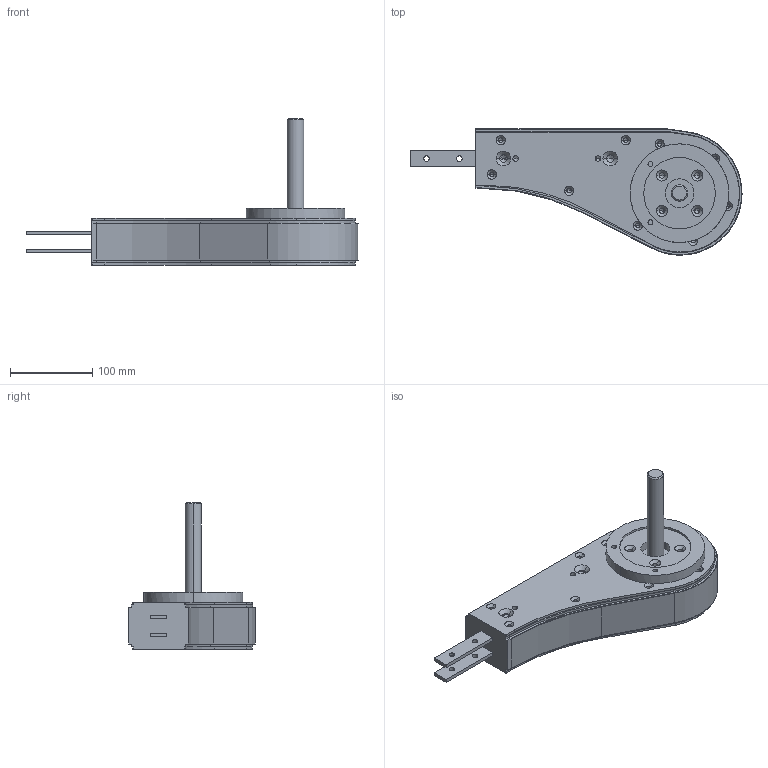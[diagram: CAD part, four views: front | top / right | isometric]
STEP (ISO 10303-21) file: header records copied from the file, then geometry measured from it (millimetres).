
FILE_DESCRIPTION (( 'STEP AP214' ), '1' );
FILE_NAME ('FKDD GP 0R.step', '2017-04-07T11:07:06', ( '' ), ( '' ), 'SwSTEP 2.0', 'SolidWorks 2016', '' );
FILE_SCHEMA (( 'AUTOMOTIVE_DESIGN' ));
Length unit declared in the file: millimetre
Products named in the file (1): FKDD GP 0R
Bounding box: 403.51 x 153.36 x 178.3 mm (x, y, z)
Volume: 2116195.4 mm3; surface area: 144472.9 mm2
Topology: 1 solids, 1 shells, 317 faces, 766 edges, 424 vertices
Faces by surface type: cone 138, cylinder 119, plane 52, bspline 8
Entity records: 10026 total; most frequent: DIRECTION 1632, CARTESIAN_POINT 1588, ORIENTED_EDGE 1396, EDGE_CURVE 698, AXIS2_PLACEMENT_3D 636, VERTEX_POINT 424, EDGE_LOOP 366, LINE 360
